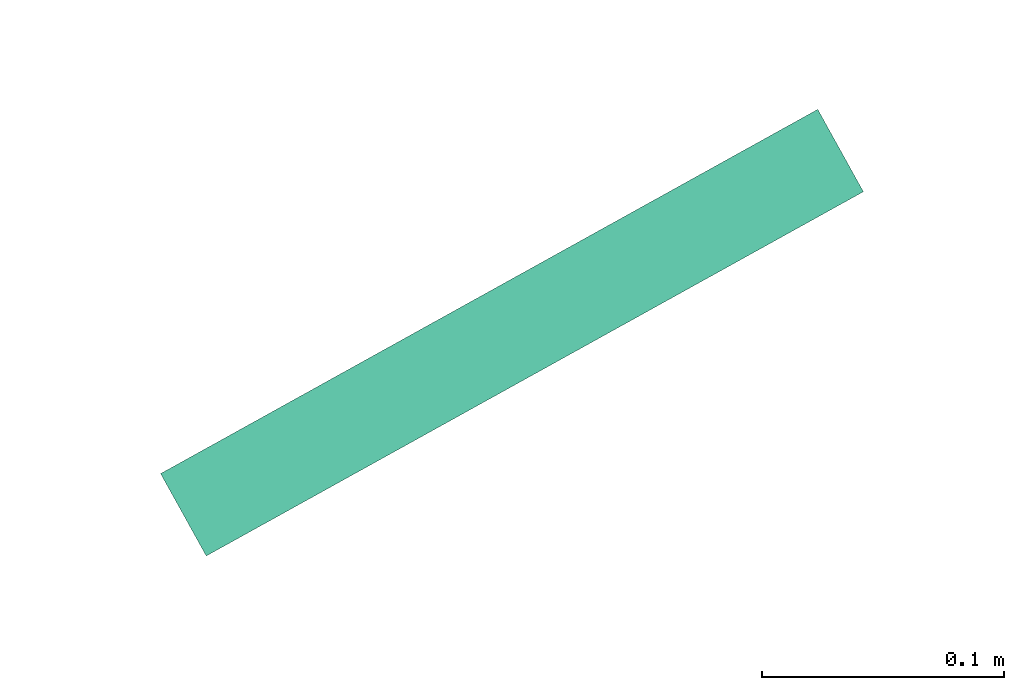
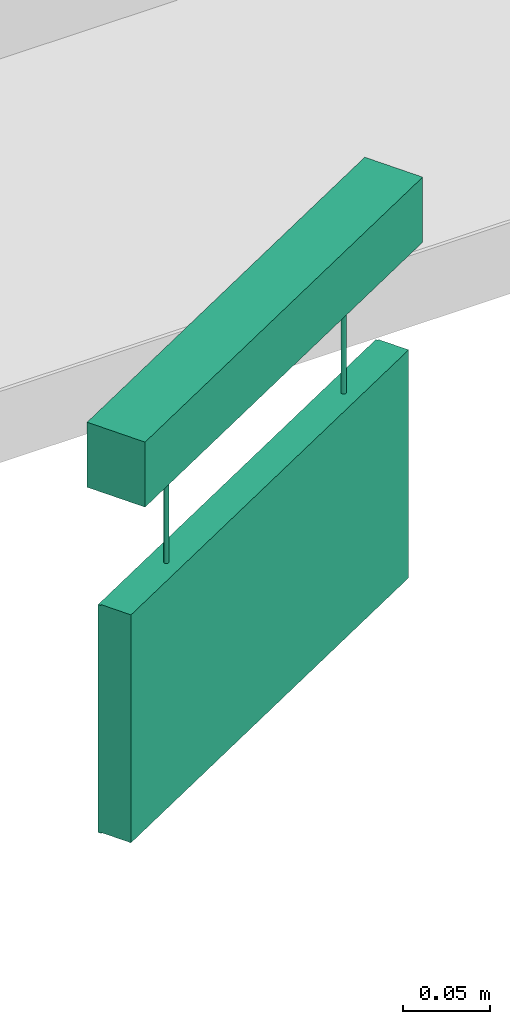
# One storey, part 12 of 24: 1 flow terminal.
"""IFC2X3 building model written with IfcOpenShell, lengths in millimetres."""

import ifcopenshell
import ifcopenshell.guid

model = None  # the IFC model being written
_history = None  # IfcOwnerHistory: only IFC2X3 demands one
_inside = {}  # id of a spatial element -> (the spatial element, [elements in it])
_under = {}  # id of a project, library or spatial element -> (it, [spatial elements below it])
_declared = {}  # id of a project -> (the project, [libraries it declares])
_typed = {}  # id of a type object -> (the type object, [elements of that type])
_made_of = {}  # id of a material, layer set ... -> (it, [elements and type objects made of it])


def new_model(schema):
    """Start an empty IFC model of exactly this schema.

    Asked for "IFC4X3", IfcOpenShell would pick the latest addendum, in which some entities
    have other attributes; the version numbers below select the first issue.
    IFC2X3 requires an IfcOwnerHistory on every rooted entity: one is made here for all.
    """
    global model, _history
    if schema == "IFC4X3":
        model = ifcopenshell.file(schema_version=(4, 3, 0, 0))
    else:
        model = ifcopenshell.file(schema=schema)
    _inside.clear()
    _under.clear()
    _declared.clear()
    _typed.clear()
    _made_of.clear()
    _history = None
    if model.schema == "IFC2X3":
        org = make("IfcOrganization", Name="unknown")
        user = make(
            "IfcPersonAndOrganization",
            ThePerson=make("IfcPerson", FamilyName="unknown"),
            TheOrganization=org,
        )
        app = make(
            "IfcApplication",
            ApplicationDeveloper=org,
            Version="unknown",
            ApplicationFullName="unknown",
            ApplicationIdentifier="unknown",
        )
        _history = make(
            "IfcOwnerHistory",
            OwningUser=user,
            OwningApplication=app,
            ChangeAction="ADDED",
            CreationDate=0,
        )
    return model


def make(cls, **values):
    """One entity of the class cls with the attributes given. An attribute that is None is left unset."""
    return model.create_entity(
        cls, **{name: value for name, value in values.items() if value is not None}
    )


def entity(cls, *values):
    """Any entity or typed value of the class cls, its attributes in the order of the schema. None: left unset."""
    e = model.create_entity(cls)
    for i, value in enumerate(values):
        if value is not None:
            e[i] = value
    return e


def rooted(cls, **values):
    """An entity with a GlobalId (a new one), such as an element, a storey or a relation."""
    return make(cls, GlobalId=ifcopenshell.guid.new(), OwnerHistory=_history, **values)


def si_unit(unit_type, name, prefix=None):
    """IfcSIUnit, for example si_unit("LENGTHUNIT", "METRE", prefix="MILLI")."""
    return make("IfcSIUnit", UnitType=unit_type, Prefix=prefix, Name=name)


def converted_unit(unit_type, name, factor, base, dimensions=None, offset=None):
    """IfcConversionBasedUnit, such as the inch: factor (a typed value) times the base unit."""
    return make(
        "IfcConversionBasedUnit"
        if offset is None
        else "IfcConversionBasedUnitWithOffset",
        ConversionOffset=offset,
        Dimensions=None
        if dimensions is None
        else entity("IfcDimensionalExponents", *dimensions),
        UnitType=unit_type,
        Name=name,
        ConversionFactor=make(
            "IfcMeasureWithUnit", ValueComponent=factor, UnitComponent=base
        ),
    )


def derived_unit(unit_type, elements):
    """IfcDerivedUnit: a product of units, each with its exponent."""
    return make(
        "IfcDerivedUnit",
        Elements=[
            make("IfcDerivedUnitElement", Unit=unit, Exponent=power)
            for unit, power in elements
        ],
        UnitType=unit_type,
    )


def assignment(units):
    """IfcUnitAssignment: the units of a project."""
    return None if units is None else make("IfcUnitAssignment", Units=units)


def point(xyz):
    """IfcCartesianPoint."""
    return None if xyz is None else make("IfcCartesianPoint", Coordinates=xyz)


def direction(xyz):
    """IfcDirection."""
    return None if xyz is None else make("IfcDirection", DirectionRatios=xyz)


def frame(location, z_axis=None, x_axis=None):
    """IfcAxis2Placement3D, a coordinate frame: its origin and axes. An axis left out is left unset."""
    return make(
        "IfcAxis2Placement3D",
        Location=point(location),
        Axis=direction(z_axis),
        RefDirection=direction(x_axis),
    )


def origin_with_axes():
    """The frame at (0, 0, 0) with the z axis (0, 0, 1) and the x axis (1, 0, 0) written out."""
    return frame((0.0, 0.0, 0.0), z_axis=(0.0, 0.0, 1.0), x_axis=(1.0, 0.0, 0.0))


def place(relative_to, where):
    """IfcLocalPlacement: puts the frame where relative to a parent placement (None: the world)."""
    return make(
        "IfcLocalPlacement", PlacementRelTo=relative_to, RelativePlacement=where
    )


def context(
    kind, dimensions, precision=None, world=None, true_north=None, identifier=None
):
    """IfcGeometricRepresentationContext, for example the 3D "Model" context."""
    return make(
        "IfcGeometricRepresentationContext",
        ContextIdentifier=identifier,
        ContextType=kind,
        CoordinateSpaceDimension=dimensions,
        Precision=precision,
        WorldCoordinateSystem=world,
        TrueNorth=true_north,
    )


def subcontext(parent, identifier, kind, view, scale=None):
    """IfcGeometricRepresentationSubContext, for example "Body" below "Model"."""
    return make(
        "IfcGeometricRepresentationSubContext",
        ContextIdentifier=identifier,
        ContextType=kind,
        ParentContext=parent,
        TargetScale=scale,
        TargetView=view,
    )


def project(units=None, contexts=None):
    """IfcProject with its units and contexts."""
    return rooted(
        "IfcProject",
        Name="project",
        RepresentationContexts=contexts,
        UnitsInContext=assignment(units),
    )


def spatial(cls, under=None, at=None, **own):
    """A site, building, storey or space (cls), placed at a placement, below another one or the project."""
    s = rooted(cls, ObjectPlacement=at, **own)
    if under is not None:
        _under.setdefault(under.id(), (under, []))[1].append(s)
    return s


def faces_of(points, faces, orient=None, outer=None):
    """IfcFace entities. A face is a list of loops; a loop is a list of indices into points, from 0.

    orient and outer hold one flag for each loop. By default every Orientation is true, the
    first loop of a face is its IfcFaceOuterBound and the others are IfcFaceBound.
    """
    made = []
    for i, loops in enumerate(faces):
        bounds = []
        for j, loop in enumerate(loops):
            is_outer = j == 0 if outer is None else outer[i][j]
            bounds.append(
                make(
                    "IfcFaceOuterBound" if is_outer else "IfcFaceBound",
                    Bound=make("IfcPolyLoop", Polygon=[points[k] for k in loop]),
                    Orientation=True if orient is None else orient[i][j],
                )
            )
        made.append(make("IfcFace", Bounds=bounds))
    return made


def open_shell(faces, orient=None, outer=None):
    """The faces of one IfcOpenShell. surface_model builds it on its shared points."""
    return ("IfcOpenShell", faces, orient, outer)


def surface_model(cls, points, shells):
    """IfcFaceBasedSurfaceModel or IfcShellBasedSurfaceModel (cls): surfaces that need not close."""
    shared = [point(p) for p in points]
    made = [make(c, CfsFaces=faces_of(shared, fs, o, b)) for c, fs, o, b in shells]
    if cls == "IfcFaceBasedSurfaceModel":
        return make(cls, FbsmFaces=made)
    return make(cls, SbsmBoundary=made)


def shape(context_of_items, identifier, shape_type, items):
    """IfcShapeRepresentation: the items that make up one representation, for example the "Body"."""
    return make(
        "IfcShapeRepresentation",
        ContextOfItems=context_of_items,
        RepresentationIdentifier=identifier,
        RepresentationType=shape_type,
        Items=items,
    )


def source(mapping_origin, context_of_items, identifier, shape_type, items):
    """IfcRepresentationMap: a shape defined once, which mapped items show again and again."""
    return make(
        "IfcRepresentationMap",
        MappingOrigin=mapping_origin,
        MappedRepresentation=shape(context_of_items, identifier, shape_type, items),
    )


def transform(
    local_origin,
    x_axis=None,
    y_axis=None,
    z_axis=None,
    scale=None,
    scale2=None,
    scale3=None,
    uniform=True,
):
    """IfcCartesianTransformationOperator3D, or its non-uniform kind. x_axis, y_axis, z_axis: its Axis1, 2, 3."""
    if uniform:
        return make(
            "IfcCartesianTransformationOperator3D",
            Axis1=direction(x_axis),
            Axis2=direction(y_axis),
            LocalOrigin=point(local_origin),
            Scale=scale,
            Axis3=direction(z_axis),
        )
    return make(
        "IfcCartesianTransformationOperator3DnonUniform",
        Axis1=direction(x_axis),
        Axis2=direction(y_axis),
        LocalOrigin=point(local_origin),
        Scale=scale,
        Axis3=direction(z_axis),
        Scale2=scale2,
        Scale3=scale3,
    )


def mapped(mapping_source, mapping_target):
    """IfcMappedItem: shows the shape of a source again, moved by a transform."""
    return make(
        "IfcMappedItem", MappingSource=mapping_source, MappingTarget=mapping_target
    )


def made_of(thing, what):
    """Note that an element or type object is made of a material, layer set ...; save() writes the relation."""
    if what is not None:
        _made_of.setdefault(what.id(), (what, []))[1].append(thing)
    return thing


def type_object(cls, material=None, **own):
    """A type object (cls), such as IfcWallType, which elements share."""
    return made_of(rooted(cls, **own), material)


def element(
    cls,
    number,
    at=None,
    inside=None,
    cuts=None,
    type_object=None,
    material=None,
    context=None,
    identifier="Body",
    shape_type=None,
    held_by="IfcProductDefinitionShape",
    body=None,
    shapes=None,
    **own,
):
    """One element of the class cls, such as IfcWall. Its Tag is "e" and its number.

    at: its placement. inside: the storey or other place that contains it. cuts: it is an
    opening in that element (IfcRelVoidsElement). A single representation is given by context,
    identifier, shape_type and body (its items); several are given by shapes. held_by: the class
    of the entity that holds the representations. save() writes the other relations.
    """
    e = rooted(cls, Tag="e%d" % number, ObjectPlacement=at, **own)
    if body is not None:
        shapes = [shape(context, identifier, shape_type, body)]
    if shapes is not None:
        e.Representation = make(held_by, Representations=shapes)
    if inside is not None:
        _inside.setdefault(inside.id(), (inside, []))[1].append(e)
    if cuts is not None:
        rooted(
            "IfcRelVoidsElement", RelatingBuildingElement=cuts, RelatedOpeningElement=e
        )
    if type_object is not None:
        _typed.setdefault(type_object.id(), (type_object, []))[1].append(e)
    return made_of(e, material)


def aggregate(whole, parts):
    """IfcRelAggregates: a whole, such as a stair, and the parts it consists of."""
    return rooted("IfcRelAggregates", RelatingObject=whole, RelatedObjects=parts)


def save(model, path):
    """Write the relations noted so far, then the file.

    IfcRelAggregates (storeys below a building ...), IfcRelContainedInSpatialStructure (elements
    in a storey), IfcRelDefinesByType, IfcRelAssociatesMaterial and IfcRelDeclares: one each for
    every whole, place, type object, material and project.
    """
    for whole, parts in _under.values():
        aggregate(whole, parts)
    for where, things in _inside.values():
        rooted(
            "IfcRelContainedInSpatialStructure",
            RelatedElements=things,
            RelatingStructure=where,
        )
    for kind, things in _typed.values():
        rooted("IfcRelDefinesByType", RelatedObjects=things, RelatingType=kind)
    for what, things in _made_of.values():
        rooted("IfcRelAssociatesMaterial", RelatedObjects=things, RelatingMaterial=what)
    for by, libraries in _declared.values():
        rooted("IfcRelDeclares", RelatingContext=by, RelatedDefinitions=libraries)
    model.write(path)


model = new_model("IFC2X3")

# Units and contexts
model_context = context("Model", 3, precision=0.01, world=frame((0.0, 4.29681676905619e-09, 0.0)), true_north=direction((4.01073788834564e-13, 1.0)))
plan_context = context("Plan", 3, precision=0.01, world=frame((0.0, 4.29681676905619e-09, 0.0)), true_north=direction((4.01073788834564e-13, 1.0)))
body_context = subcontext(model_context, "Body", "Model", "MODEL_VIEW")
ifc_project = project(units=[converted_unit("PLANEANGLEUNIT", "DEGREE", entity("IfcPositiveLengthMeasure", 0.0174532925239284), si_unit("PLANEANGLEUNIT", "RADIAN"), dimensions=[0, 0, 0, 0, 0, 0, 0]), si_unit("AREAUNIT", "SQUARE_METRE"), si_unit("LENGTHUNIT", "METRE", prefix="MILLI"), si_unit("MASSUNIT", "GRAM", prefix="KILO"), si_unit("POWERUNIT", "WATT"), si_unit("PRESSUREUNIT", "PASCAL"), si_unit("FORCEUNIT", "NEWTON", prefix="KILO"), si_unit("ELECTRICVOLTAGEUNIT", "VOLT"), si_unit("ELECTRICCURRENTUNIT", "AMPERE"), si_unit("THERMODYNAMICTEMPERATUREUNIT", "DEGREE_CELSIUS"), si_unit("TIMEUNIT", "SECOND"), si_unit("VOLUMEUNIT", "CUBIC_METRE"), derived_unit("LINEARVELOCITYUNIT", [(si_unit("LENGTHUNIT", "METRE"), 1), (si_unit("TIMEUNIT", "SECOND"), -1)]), derived_unit("VOLUMETRICFLOWRATEUNIT", [(si_unit("VOLUMEUNIT", "CUBIC_METRE"), 1), (si_unit("TIMEUNIT", "SECOND"), -1)]), derived_unit("THERMALTRANSMITTANCEUNIT", [(si_unit("POWERUNIT", "WATT"), 1), (si_unit("THERMODYNAMICTEMPERATUREUNIT", "KELVIN"), -1), (si_unit("AREAUNIT", "SQUARE_METRE"), -1)]), derived_unit("SOUNDPRESSUREUNIT", [(si_unit("PRESSUREUNIT", "PASCAL"), 1)])], contexts=[model_context, plan_context])

# Site, building, storey
site_placement = place(None, frame((0.0, -4.29681676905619e-09, 0.0), z_axis=(0.0, 0.0, 1.0), x_axis=(1.0, 0.0, 0.0)))
site = spatial("IfcSite", under=ifc_project, at=site_placement, Name="ENGM", CompositionType="ELEMENT")
building_placement = place(site_placement, frame((0.0, 4.29681676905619e-09, 0.0), z_axis=(0.0, 0.0, 1.0), x_axis=(1.0, 0.0, 0.0)))
building = spatial("IfcBuilding", under=site, at=building_placement, Name="TH", CompositionType="ELEMENT")
storey_placement = place(building_placement, frame((0.0, 0.0, 210200.0), z_axis=(0.0, 0.0, 1.0), x_axis=(1.0, 0.0, 0.0)))
storey = spatial("IfcBuildingStorey", under=building, at=storey_placement, Name="Nivå F - 0,7 m", CompositionType="ELEMENT", Elevation=210200.0)

# Flow terminal
light_fixture_type = type_object("IfcLightFixtureType", Name="IB7334 Zumtobel Puresign/Consign 150 ASI NDA", PredefinedType="NOTDEFINED")
shared_shape = source(origin_with_axes(), body_context, "Body", "SurfaceModel", [
    surface_model("IfcShellBasedSurfaceModel", [(-81.53868, 34.0, -145.12258), (-54.46132, 34.0, -145.12258), (-54.46132, 34.0, -221.44284), (-27.10707, 34.0, -224.68761), (-68.0, 34.0, -265.58054), (-27.10707, 34.0, -194.08859), (-81.53868, 34.0, -221.44284), (-108.89293, 34.0, -224.68761), (-108.89293, 34.0, -194.08859), (-81.53868, 32.0, -221.44284), (-68.0, 32.0, -265.58054), (-54.46132, 32.0, -221.44284), (-108.89293, 32.0, -224.68761), (-108.89293, 32.0, -194.08859), (-27.10707, 32.0, -224.68761), (-81.53868, 32.0, -145.12258), (-54.46132, 32.0, -145.12258), (-27.10707, 32.0, -194.08859), (-128.62178, 34.0, -240.35155), (-135.61481, 34.0, -223.4689), (-117.49747, 34.0, -254.84903), (-138.0, 34.0, -205.35156), (-135.61481, 34.0, -187.23423), (-128.62178, 34.0, -170.35156), (-103.0, 34.0, -265.97334), (-86.11734, 34.0, -272.96637), (-68.0, 34.0, -275.35156), (-49.88267, 34.0, -272.96637), (-33.0, 34.0, -265.97334), (-117.49747, 34.0, -155.8541), (-103.0, 34.0, -144.72978), (-86.11734, 34.0, -137.73675), (-68.0, 34.0, -135.35156), (-49.88267, 34.0, -137.73675), (-33.0, 34.0, -144.72978), (-0.38519, 34.0, -223.4689), (-7.37822, 34.0, -240.35155), (2.0, 34.0, -205.35156), (-18.50252, 34.0, -254.84903), (-18.50252, 34.0, -155.8541), (-7.37822, 34.0, -170.35156), (-0.38519, 34.0, -187.23423), (-49.88267, 32.0, -137.73675), (-68.0, 32.0, -135.35156), (-33.0, 32.0, -144.72978), (-103.0, 32.0, -144.72978), (-86.11734, 32.0, -137.73675), (-0.38519, 32.0, -187.23423), (-7.37822, 32.0, -170.35156), (2.0, 32.0, -205.35156), (-18.50252, 32.0, -155.8541), (-0.38519, 32.0, -223.4689), (-7.37822, 32.0, -240.35155), (-18.50252, 32.0, -254.84903), (-117.49747, 32.0, -155.8541), (-128.62178, 32.0, -170.35156), (-135.61481, 32.0, -187.23423), (-138.0, 32.0, -205.35156), (-135.61481, 32.0, -223.4689), (-128.62178, 32.0, -240.35155), (-117.49747, 32.0, -254.84903), (-103.0, 32.0, -265.97334), (-33.0, 32.0, -265.97334), (-86.11734, 32.0, -272.96637), (-49.88267, 32.0, -272.96637), (-68.0, 32.0, -275.35156), (-155.0, 34.0, -285.35157), (29.54747, 34.0, -259.89348), (40.0, 34.0, -266.174), (155.0, 34.0, -285.35157), (-155.0, 34.0, -125.35156), (10.0, 34.0, -203.35156), (10.0, 34.0, -191.35157), (40.0, 34.0, -203.35156), (28.0, 34.0, -178.14045), (58.20469, 34.0, -212.19986), (68.0, 34.0, -251.35155), (68.0, 34.0, -219.57417), (110.0, 34.0, -251.35155), (110.0, 34.0, -239.35156), (80.0, 34.0, -207.93515), (80.0, 34.0, -239.35156), (155.0, 34.0, -125.35156), (28.0, 34.0, -191.35157), (88.85504, 34.0, -196.43854), (99.14496, 34.0, -190.26459), (78.60286, 34.0, -179.35157), (65.7082, 34.0, -179.35157), (38.37653, 34.0, -166.87452), (42.6718, 34.0, -168.35925), (40.0, 34.0, -183.07235), (29.87565, 34.0, -160.35157), (28.0, 34.0, -153.35156), (28.47704, 34.0, -149.7281), (29.87565, 34.0, -146.35156), (28.47704, 34.0, -156.97503), (35.0, 34.0, -165.47591), (32.1005, 34.0, -163.25106), (42.0, 34.0, -139.35156), (32.1005, 34.0, -143.45206), (35.0, 34.0, -141.22721), (38.37653, 34.0, -139.8286), (42.0, 34.0, -167.35156), (45.62347, 34.0, -166.87452), (46.0, 34.0, -167.35156), (49.0, 34.0, -165.47591), (85.39714, 34.0, -167.35156), (51.89949, 34.0, -163.25106), (54.12435, 34.0, -160.35157), (55.52296, 34.0, -156.97503), (51.89949, 34.0, -143.45206), (49.0, 34.0, -141.22721), (45.62347, 34.0, -139.8286), (55.52296, 34.0, -149.7281), (56.0, 34.0, -153.35156), (54.12435, 34.0, -146.35156), (155.0, 32.0, -125.35156), (-155.0, 32.0, -125.35156), (42.0, 32.0, -139.35156), (35.0, 32.0, -141.22721), (29.87565, 32.0, -146.35156), (32.1005, 32.0, -143.45206), (38.37653, 32.0, -139.8286), (28.47704, 32.0, -149.7281), (28.0, 32.0, -153.35156), (28.47704, 32.0, -156.97503), (28.0, 32.0, -178.14045), (38.37653, 32.0, -166.87452), (35.0, 32.0, -165.47591), (32.1005, 32.0, -163.25106), (29.87565, 32.0, -160.35157), (45.62347, 32.0, -139.8286), (49.0, 32.0, -141.22721), (51.89949, 32.0, -143.45206), (54.12435, 32.0, -146.35156), (85.39714, 32.0, -167.35156), (55.52296, 32.0, -149.7281), (56.0, 32.0, -153.35156), (45.62347, 32.0, -166.87452), (42.6718, 32.0, -168.35925), (46.0, 32.0, -167.35156), (42.0, 32.0, -167.35156), (49.0, 32.0, -165.47591), (54.12435, 32.0, -160.35157), (55.52296, 32.0, -156.97503), (51.89949, 32.0, -163.25106), (99.14496, 32.0, -190.26459), (-155.0, 32.0, -285.35157), (10.0, 32.0, -203.35156), (10.0, 32.0, -191.35157), (40.0, 32.0, -203.35156), (29.54747, 32.0, -259.89348), (155.0, 32.0, -285.35157), (40.0, 32.0, -266.174), (28.0, 32.0, -191.35157), (88.85504, 32.0, -196.43854), (78.60286, 32.0, -179.35157), (80.0, 32.0, -207.93515), (65.7082, 32.0, -179.35157), (110.0, 32.0, -239.35156), (40.0, 32.0, -183.07235), (58.20469, 32.0, -212.19986), (68.0, 32.0, -219.57417), (68.0, 32.0, -251.35155), (110.0, 32.0, -251.35155), (80.0, 32.0, -239.35156), (97.65961, 22.79955, -45.35156), (98.63059, 23.54461, -45.35156), (98.24492, 23.38486, -45.35156), (97.91374, 23.13074, -45.35156), (97.49985, 22.41388, -45.35156), (97.44537, 22.0, -45.35156), (99.45835, 23.54461, -45.35156), (100.42933, 21.20045, -45.35156), (99.84401, 23.38486, -45.35156), (100.58908, 22.41388, -45.35156), (99.04447, 23.5991, -45.35156), (100.42933, 22.79955, -45.35156), (100.1752, 23.13074, -45.35156), (97.91374, 20.86927, -45.35156), (97.49985, 21.58612, -45.35156), (97.65961, 21.20045, -45.35156), (98.63059, 20.45539, -45.35156), (99.04447, 20.4009, -45.35156), (98.24492, 20.61514, -45.35156), (99.45835, 20.45539, -45.35156), (100.64357, 22.0, -45.35156), (100.58908, 21.58612, -45.35156), (99.84401, 20.61514, -45.35156), (100.1752, 20.86927, -45.35156), (-99.84401, 23.38486, -45.35156), (-98.24492, 23.38486, -45.35156), (-99.45835, 23.54461, -45.35156), (-100.1752, 23.13074, -45.35156), (-100.1752, 20.86927, -45.35156), (-100.58908, 22.41388, -45.35156), (-100.64357, 22.0, -45.35156), (-100.42933, 22.79955, -45.35156), (-97.65961, 21.20045, -45.35156), (-99.04447, 23.5991, -45.35156), (-98.63059, 23.54461, -45.35156), (-97.91374, 23.13074, -45.35156), (-97.49985, 22.41388, -45.35156), (-97.65961, 22.79955, -45.35156), (-100.58908, 21.58612, -45.35156), (-100.42933, 21.20045, -45.35156), (-99.45835, 20.45539, -45.35156), (-99.84401, 20.61514, -45.35156), (-99.04447, 20.4009, -45.35156), (-98.63059, 20.45539, -45.35156), (-97.44537, 22.0, -45.35156), (-97.49985, 21.58612, -45.35156), (-98.24492, 20.61514, -45.35156), (-97.91374, 20.86927, -45.35156), (97.91374, 20.86927, -124.69685), (99.04447, 20.4009, -124.69685), (98.63059, 20.45539, -124.69685), (98.24492, 20.61514, -124.69685), (97.65961, 21.20045, -124.69685), (97.49985, 21.58612, -124.69685), (99.45835, 20.45539, -124.69685), (97.65961, 22.79955, -124.69685), (100.42933, 21.20045, -124.69685), (99.84401, 20.61514, -124.69685), (100.1752, 20.86927, -124.69685), (100.64357, 22.0, -124.69685), (100.58908, 21.58612, -124.69685), (100.58908, 22.41388, -124.69685), (97.44537, 22.0, -124.69685), (97.49985, 22.41388, -124.69685), (98.63059, 23.54461, -124.69685), (98.24492, 23.38486, -124.69685), (97.91374, 23.13074, -124.69685), (99.45835, 23.54461, -124.69685), (100.42933, 22.79955, -124.69685), (99.84401, 23.38486, -124.69685), (100.1752, 23.13074, -124.69685), (99.04447, 23.5991, -124.69685), (-99.45835, 20.45539, -124.69685), (-98.63059, 20.45539, -124.69685), (-99.04447, 20.4009, -124.69685), (-100.1752, 20.86927, -124.69685), (-99.84401, 20.61514, -124.69685), (-100.42933, 21.20045, -124.69685), (-100.58908, 21.58612, -124.69685), (-97.65961, 21.20045, -124.69685), (-99.84401, 23.38486, -124.69685), (-98.24492, 20.61514, -124.69685), (-97.91374, 20.86927, -124.69685), (-97.44537, 22.0, -124.69685), (-97.49985, 21.58612, -124.69685), (-97.49985, 22.41388, -124.69685), (-100.64357, 22.0, -124.69685), (-100.1752, 23.13074, -124.69685), (-100.58908, 22.41388, -124.69685), (-100.42933, 22.79955, -124.69685), (-98.24492, 23.38486, -124.69685), (-99.45835, 23.54461, -124.69685), (-97.91374, 23.13074, -124.69685), (-97.65961, 22.79955, -124.69685), (-99.04447, 23.5991, -124.69685), (-98.63059, 23.54461, -124.69685), (155.0, 41.43279, -0.02005), (155.0, 2.56721, -0.02005), (155.0, 41.43279, -45.67969), (155.0, 2.56721, -45.67969), (155.0, 32.0, -124.69685), (155.0, 12.0, -124.69685), (155.0, 12.0, -284.69685), (155.0, 32.0, -284.69685), (-155.0, 32.0, -284.69685), (-155.0, 12.0, -284.69685), (-155.0, 32.0, -124.69685), (-155.0, 12.0, -124.69685), (-155.0, 41.43279, -45.67969), (-155.0, 2.56721, -45.67969), (-155.0, 2.56721, -0.02005), (-155.0, 41.43279, -0.02005)], [open_shell([[[0, 1, 2]], [[2, 3, 4]], [[3, 2, 5]], [[6, 4, 7]], [[4, 6, 2]], [[6, 7, 8]], [[2, 6, 0]], [[9, 10, 11]], [[12, 9, 13]], [[9, 12, 10]], [[10, 14, 11]], [[15, 11, 16]], [[15, 9, 11]], [[17, 11, 14]], [[3, 5, 17]], [[17, 14, 3]], [[4, 3, 14]], [[14, 10, 4]], [[7, 4, 10]], [[10, 12, 7]], [[8, 7, 12]], [[12, 13, 8]], [[6, 8, 9]], [[13, 9, 8]], [[0, 6, 9]], [[9, 15, 0]], [[1, 0, 15]], [[15, 16, 1]], [[2, 1, 16]], [[16, 11, 2]], [[5, 2, 17]], [[11, 17, 2]], [[18, 19, 7]], [[7, 20, 18]], [[7, 19, 21]], [[22, 23, 8]], [[7, 21, 8]], [[6, 8, 0]], [[8, 21, 22]], [[20, 7, 24]], [[25, 24, 4]], [[26, 4, 27]], [[4, 26, 25]], [[7, 4, 24]], [[27, 4, 28]], [[3, 28, 4]], [[8, 23, 29]], [[30, 0, 8]], [[0, 31, 32]], [[31, 0, 30]], [[32, 33, 1]], [[2, 1, 5]], [[34, 1, 33]], [[32, 1, 0]], [[5, 1, 34]], [[3, 35, 36]], [[35, 3, 37]], [[36, 38, 3]], [[38, 28, 3]], [[39, 40, 5]], [[5, 41, 37]], [[41, 5, 40]], [[5, 37, 3]], [[39, 5, 34]], [[30, 8, 29]], [[42, 43, 16]], [[17, 44, 16]], [[16, 44, 42]], [[43, 15, 16]], [[15, 45, 13]], [[46, 15, 43]], [[15, 46, 45]], [[16, 11, 17]], [[17, 47, 48]], [[17, 49, 47]], [[48, 50, 17]], [[14, 51, 49]], [[52, 51, 14]], [[52, 14, 53]], [[14, 49, 17]], [[50, 44, 17]], [[45, 54, 13]], [[55, 56, 13]], [[57, 12, 13]], [[13, 56, 57]], [[9, 15, 13]], [[58, 59, 12]], [[60, 12, 59]], [[12, 57, 58]], [[12, 60, 61]], [[14, 10, 62]], [[53, 14, 62]], [[61, 63, 10]], [[64, 10, 65]], [[10, 64, 62]], [[65, 10, 63]], [[12, 61, 10]], [[13, 54, 55]], [[3, 4, 10]], [[10, 14, 3]], [[5, 3, 14]], [[14, 17, 5]], [[2, 5, 17]], [[17, 11, 2]], [[1, 2, 16]], [[11, 16, 2]], [[0, 1, 16]], [[16, 15, 0]], [[6, 0, 15]], [[15, 9, 6]], [[8, 6, 9]], [[9, 13, 8]], [[7, 8, 13]], [[13, 12, 7]], [[4, 7, 12]], [[12, 10, 4]], [[42, 33, 43]], [[44, 34, 42]], [[40, 50, 48]], [[44, 50, 39]], [[41, 48, 47]], [[42, 34, 33]], [[33, 32, 43]], [[41, 40, 48]], [[39, 50, 40]], [[39, 34, 44]], [[37, 41, 47]], [[47, 49, 37]], [[51, 35, 49]], [[52, 36, 51]], [[28, 53, 62]], [[52, 53, 38]], [[27, 62, 64]], [[52, 38, 36]], [[36, 35, 51]], [[26, 27, 64]], [[28, 62, 27]], [[28, 38, 53]], [[65, 26, 64]], [[49, 35, 37]], [[63, 25, 65]], [[61, 24, 63]], [[18, 60, 59]], [[61, 60, 20]], [[19, 59, 58]], [[63, 24, 25]], [[25, 26, 65]], [[19, 18, 59]], [[20, 60, 18]], [[20, 24, 61]], [[21, 19, 58]], [[58, 57, 21]], [[56, 22, 57]], [[55, 23, 56]], [[30, 54, 45]], [[55, 54, 29]], [[31, 45, 46]], [[55, 29, 23]], [[23, 22, 56]], [[32, 31, 46]], [[30, 45, 31]], [[30, 29, 54]], [[43, 32, 46]], [[57, 22, 21]], [[66, 24, 25]], [[24, 66, 20]], [[18, 20, 66]], [[66, 19, 18]], [[25, 26, 66]], [[28, 38, 67]], [[27, 28, 68]], [[26, 27, 69]], [[66, 26, 69]], [[21, 19, 66]], [[22, 21, 70]], [[67, 36, 35]], [[71, 37, 72]], [[41, 72, 37]], [[37, 71, 35]], [[73, 35, 71]], [[41, 40, 74]], [[21, 66, 70]], [[38, 36, 67]], [[67, 68, 28]], [[67, 73, 75]], [[76, 68, 77]], [[69, 78, 79]], [[69, 68, 78]], [[80, 79, 81]], [[68, 76, 78]], [[82, 69, 79]], [[68, 69, 27]], [[73, 67, 35]], [[74, 83, 72]], [[72, 41, 74]], [[84, 85, 79]], [[84, 80, 86]], [[86, 80, 87]], [[88, 89, 74]], [[84, 79, 80]], [[75, 73, 90]], [[82, 79, 85]], [[91, 74, 40]], [[92, 40, 39]], [[39, 93, 92]], [[94, 93, 39]], [[23, 70, 29]], [[40, 92, 95]], [[96, 74, 97]], [[91, 40, 95]], [[74, 91, 97]], [[74, 96, 88]], [[31, 30, 70]], [[98, 33, 32]], [[70, 32, 31]], [[30, 29, 70]], [[39, 99, 94]], [[39, 34, 99]], [[34, 100, 99]], [[100, 34, 33]], [[101, 100, 33]], [[32, 70, 82]], [[23, 22, 70]], [[89, 102, 103]], [[102, 89, 88]], [[89, 103, 104]], [[104, 105, 106]], [[107, 106, 105]], [[105, 104, 103]], [[106, 108, 109]], [[106, 107, 108]], [[110, 111, 82]], [[98, 101, 33]], [[112, 98, 82]], [[111, 112, 82]], [[113, 106, 114]], [[115, 82, 106]], [[82, 115, 110]], [[106, 113, 115]], [[114, 106, 109]], [[98, 32, 82]], [[106, 82, 85]], [[116, 117, 43]], [[43, 117, 46]], [[45, 46, 117]], [[117, 54, 45]], [[43, 42, 118]], [[119, 42, 44]], [[120, 121, 50]], [[44, 121, 119]], [[44, 50, 121]], [[119, 122, 42]], [[123, 120, 50]], [[123, 50, 124]], [[125, 124, 48]], [[54, 117, 55]], [[126, 127, 128]], [[126, 129, 130]], [[126, 128, 129]], [[130, 125, 48]], [[124, 50, 48]], [[117, 56, 55]], [[118, 131, 116]], [[118, 42, 122]], [[131, 132, 116]], [[116, 133, 134]], [[133, 116, 132]], [[135, 134, 136]], [[116, 134, 135]], [[135, 136, 137]], [[118, 116, 43]], [[138, 139, 140]], [[139, 138, 141]], [[139, 141, 127]], [[127, 126, 139]], [[138, 140, 142]], [[143, 135, 144]], [[142, 135, 145]], [[135, 142, 140]], [[135, 143, 145]], [[144, 135, 137]], [[116, 135, 146]], [[56, 117, 57]], [[57, 147, 58]], [[126, 48, 47]], [[148, 49, 51]], [[47, 49, 149]], [[150, 148, 51]], [[148, 149, 49]], [[51, 52, 151]], [[60, 59, 147]], [[61, 147, 63]], [[147, 61, 60]], [[59, 58, 147]], [[53, 62, 151]], [[65, 63, 147]], [[64, 65, 152]], [[62, 64, 153]], [[147, 152, 65]], [[117, 147, 57]], [[52, 53, 151]], [[154, 126, 149]], [[126, 47, 149]], [[155, 156, 157]], [[157, 156, 158]], [[146, 155, 159]], [[160, 150, 161]], [[162, 153, 163]], [[153, 151, 62]], [[163, 153, 164]], [[161, 150, 151]], [[157, 165, 159]], [[159, 164, 152]], [[116, 159, 152]], [[153, 152, 164]], [[159, 155, 157]], [[153, 64, 152]], [[51, 151, 150]], [[159, 116, 146]], [[130, 48, 126]], [[70, 66, 147]], [[147, 117, 70]], [[82, 70, 117]], [[117, 116, 82]], [[69, 82, 116]], [[116, 152, 69]], [[66, 69, 152]], [[152, 147, 66]], [[79, 78, 164]], [[164, 159, 79]], [[81, 79, 159]], [[159, 165, 81]], [[87, 80, 157]], [[157, 158, 87]], [[86, 87, 158]], [[158, 156, 86]], [[84, 86, 156]], [[156, 155, 84]], [[85, 84, 155]], [[155, 146, 85]], [[106, 85, 146]], [[146, 135, 106]], [[104, 106, 135]], [[135, 140, 104]], [[89, 104, 139]], [[140, 139, 104]], [[74, 89, 139]], [[139, 126, 74]], [[83, 74, 126]], [[126, 154, 83]], [[72, 83, 149]], [[154, 149, 83]], [[71, 72, 149]], [[149, 148, 71]], [[73, 71, 148]], [[148, 150, 73]], [[90, 73, 150]], [[150, 160, 90]], [[75, 90, 160]], [[160, 161, 75]], [[67, 75, 161]], [[161, 151, 67]], [[68, 67, 151]], [[151, 153, 68]], [[77, 68, 153]], [[153, 162, 77]], [[76, 77, 162]], [[162, 163, 76]], [[92, 125, 95]], [[95, 130, 91]], [[96, 97, 128]], [[129, 97, 91]], [[88, 96, 127]], [[125, 130, 95]], [[92, 124, 125]], [[96, 128, 127]], [[128, 97, 129]], [[91, 130, 129]], [[88, 127, 141]], [[141, 102, 88]], [[102, 138, 103]], [[103, 142, 105]], [[108, 107, 143]], [[145, 107, 105]], [[109, 108, 144]], [[142, 145, 105]], [[103, 138, 142]], [[109, 144, 137]], [[144, 108, 143]], [[107, 145, 143]], [[109, 137, 114]], [[141, 138, 102]], [[78, 76, 163]], [[163, 164, 78]], [[80, 81, 165]], [[165, 157, 80]], [[114, 136, 113]], [[113, 134, 115]], [[111, 110, 132]], [[133, 110, 115]], [[112, 111, 131]], [[136, 134, 113]], [[114, 137, 136]], [[111, 132, 131]], [[132, 110, 133]], [[115, 134, 133]], [[112, 131, 118]], [[118, 98, 112]], [[98, 122, 101]], [[101, 119, 100]], [[94, 99, 120]], [[121, 99, 100]], [[93, 94, 123]], [[119, 121, 100]], [[101, 122, 119]], [[93, 123, 124]], [[123, 94, 120]], [[99, 121, 120]], [[93, 124, 92]], [[118, 122, 98]], [[37, 47, 41]], [[41, 48, 40]], [[34, 39, 44]], [[50, 39, 40]], [[33, 34, 42]], [[47, 48, 41]], [[37, 49, 47]], [[34, 44, 42]], [[44, 39, 50]], [[40, 48, 50]], [[33, 42, 43]], [[43, 32, 33]], [[32, 46, 31]], [[31, 45, 30]], [[23, 29, 55]], [[54, 29, 30]], [[22, 23, 56]], [[45, 54, 30]], [[31, 46, 45]], [[22, 56, 57]], [[56, 23, 55]], [[29, 54, 55]], [[22, 57, 21]], [[43, 46, 32]], [[21, 58, 19]], [[19, 59, 18]], [[24, 20, 61]], [[60, 20, 18]], [[25, 24, 63]], [[58, 59, 19]], [[21, 57, 58]], [[24, 61, 63]], [[61, 20, 60]], [[18, 59, 60]], [[25, 63, 65]], [[65, 26, 25]], [[26, 64, 27]], [[27, 62, 28]], [[36, 38, 52]], [[53, 38, 28]], [[35, 36, 51]], [[62, 53, 28]], [[27, 64, 62]], [[35, 51, 49]], [[51, 36, 52]], [[38, 53, 52]], [[35, 49, 37]], [[65, 64, 26]], [[106, 86, 87]], [[86, 106, 85]], [[84, 86, 85]], [[87, 75, 90]], [[106, 87, 104]], [[89, 90, 74]], [[90, 89, 104]], [[73, 83, 90]], [[71, 72, 83]], [[83, 74, 90]], [[104, 87, 90]], [[77, 80, 81]], [[78, 76, 81]], [[78, 81, 79]], [[77, 81, 76]], [[73, 71, 83]], [[75, 77, 67]], [[77, 68, 67]], [[75, 80, 77]], [[75, 87, 80]], [[98, 112, 111]], [[110, 98, 111]], [[92, 101, 110]], [[113, 110, 115]], [[113, 92, 110]], [[101, 99, 100]], [[101, 98, 110]], [[101, 94, 99]], [[101, 92, 94]], [[94, 92, 93]], [[114, 109, 113]], [[109, 108, 107]], [[91, 109, 107]], [[105, 103, 102]], [[91, 107, 105]], [[91, 105, 102]], [[92, 91, 95]], [[92, 109, 91]], [[91, 96, 97]], [[102, 96, 91]], [[102, 88, 96]], [[109, 92, 113]], [[163, 164, 165]], [[163, 165, 162]], [[159, 165, 164]], [[162, 165, 157]], [[161, 151, 162]], [[151, 153, 162]], [[160, 161, 158]], [[148, 150, 154]], [[162, 157, 161]], [[161, 157, 158]], [[155, 146, 156]], [[158, 156, 135]], [[135, 156, 146]], [[158, 135, 140]], [[154, 150, 160]], [[126, 154, 160]], [[149, 148, 154]], [[160, 139, 126]], [[139, 160, 140]], [[160, 158, 140]], [[141, 138, 142]], [[130, 141, 142]], [[145, 143, 144]], [[130, 142, 145]], [[130, 145, 144]], [[128, 130, 129]], [[128, 127, 141]], [[130, 124, 125]], [[130, 128, 141]], [[120, 124, 130]], [[130, 144, 122]], [[144, 136, 133]], [[133, 136, 134]], [[118, 133, 132]], [[118, 144, 133]], [[132, 131, 118]], [[120, 122, 121]], [[123, 124, 120]], [[121, 122, 119]], [[130, 122, 120]], [[122, 144, 118]], [[137, 136, 144]], [[78, 79, 159]], [[159, 164, 78]], [[76, 78, 164]], [[164, 163, 76]], [[77, 76, 163]], [[163, 162, 77]], [[68, 77, 162]], [[162, 153, 68]], [[67, 68, 153]], [[153, 151, 67]], [[75, 67, 151]], [[151, 161, 75]], [[90, 75, 161]], [[161, 160, 90]], [[73, 90, 160]], [[160, 150, 73]], [[71, 73, 150]], [[150, 148, 71]], [[72, 71, 148]], [[148, 149, 72]], [[83, 72, 149]], [[149, 154, 83]], [[74, 83, 154]], [[154, 126, 74]], [[89, 74, 126]], [[126, 139, 89]], [[104, 89, 139]], [[139, 140, 104]], [[106, 104, 140]], [[140, 135, 106]], [[85, 106, 135]], [[135, 146, 85]], [[84, 85, 146]], [[146, 155, 84]], [[86, 84, 155]], [[155, 156, 86]], [[87, 86, 156]], [[156, 158, 87]], [[80, 87, 158]], [[158, 157, 80]], [[81, 80, 157]], [[157, 165, 81]], [[79, 81, 165]], [[165, 159, 79]], [[123, 93, 124]], [[120, 94, 123]], [[100, 121, 119]], [[120, 121, 99]], [[101, 119, 122]], [[123, 94, 93]], [[93, 92, 124]], [[101, 100, 119]], [[99, 121, 100]], [[99, 94, 120]], [[98, 101, 122]], [[122, 118, 98]], [[131, 112, 118]], [[132, 111, 131]], [[115, 133, 134]], [[132, 133, 110]], [[113, 134, 136]], [[132, 110, 111]], [[111, 112, 131]], [[114, 113, 136]], [[115, 134, 113]], [[115, 110, 133]], [[137, 114, 136]], [[118, 112, 98]], [[144, 109, 137]], [[143, 108, 144]], [[105, 145, 142]], [[143, 145, 107]], [[103, 142, 138]], [[144, 108, 109]], [[109, 114, 137]], [[103, 105, 142]], [[107, 145, 105]], [[107, 108, 143]], [[102, 103, 138]], [[138, 141, 102]], [[127, 88, 141]], [[128, 96, 127]], [[91, 129, 130]], [[128, 129, 97]], [[95, 130, 125]], [[128, 97, 96]], [[96, 88, 127]], [[92, 95, 125]], [[91, 130, 95]], [[91, 97, 129]], [[124, 92, 125]], [[141, 88, 102]], [[166, 167, 168]], [[166, 168, 169]], [[166, 170, 171]], [[172, 167, 173]], [[167, 166, 173]], [[174, 173, 175]], [[172, 176, 167]], [[174, 177, 178]], [[177, 174, 175]], [[174, 172, 173]], [[166, 171, 179]], [[180, 181, 179]], [[166, 179, 173]], [[182, 183, 179]], [[182, 179, 184]], [[185, 179, 183]], [[186, 173, 187]], [[175, 173, 186]], [[173, 188, 189]], [[188, 173, 185]], [[179, 185, 173]], [[171, 180, 179]], [[190, 191, 192]], [[193, 194, 190]], [[195, 196, 193]], [[195, 193, 197]], [[198, 191, 190]], [[199, 191, 200]], [[199, 192, 191]], [[201, 202, 203]], [[198, 201, 191]], [[198, 202, 201]], [[193, 196, 194]], [[204, 205, 194]], [[190, 194, 198]], [[194, 206, 198]], [[206, 194, 207]], [[208, 209, 206]], [[210, 198, 211]], [[202, 198, 210]], [[198, 212, 213]], [[212, 198, 209]], [[206, 209, 198]], [[196, 204, 194]], [[214, 215, 216]], [[214, 216, 217]], [[214, 218, 219]], [[215, 214, 220]], [[221, 222, 214]], [[223, 222, 224]], [[222, 223, 220]], [[222, 225, 226]], [[222, 220, 214]], [[222, 227, 225]], [[228, 214, 219]], [[228, 229, 221]], [[230, 222, 221]], [[231, 230, 221]], [[231, 221, 232]], [[222, 230, 233]], [[234, 235, 236]], [[235, 234, 227]], [[222, 235, 227]], [[233, 235, 222]], [[230, 237, 233]], [[221, 214, 228]], [[238, 239, 240]], [[241, 238, 242]], [[241, 243, 244]], [[245, 238, 241]], [[246, 245, 241]], [[247, 245, 248]], [[245, 247, 239]], [[245, 249, 250]], [[245, 239, 238]], [[245, 251, 249]], [[252, 241, 244]], [[253, 252, 254]], [[253, 254, 255]], [[246, 256, 245]], [[241, 253, 246]], [[256, 246, 257]], [[251, 258, 259]], [[245, 258, 251]], [[256, 260, 261]], [[245, 256, 258]], [[257, 260, 256]], [[253, 241, 252]], [[227, 175, 225]], [[234, 177, 227]], [[233, 237, 172]], [[236, 177, 234]], [[186, 225, 175]], [[175, 227, 177]], [[235, 174, 178]], [[174, 235, 172]], [[235, 233, 172]], [[178, 177, 236]], [[178, 236, 235]], [[237, 176, 172]], [[167, 230, 231]], [[232, 168, 231]], [[166, 221, 229]], [[232, 221, 169]], [[170, 229, 228]], [[167, 176, 230]], [[168, 167, 231]], [[166, 169, 221]], [[171, 170, 228]], [[166, 229, 170]], [[168, 232, 169]], [[230, 176, 237]], [[219, 180, 228]], [[218, 181, 219]], [[214, 217, 184]], [[218, 214, 179]], [[171, 228, 180]], [[180, 219, 181]], [[183, 182, 216]], [[216, 182, 184]], [[179, 214, 184]], [[179, 181, 218]], [[217, 216, 184]], [[216, 215, 183]], [[185, 220, 223]], [[224, 188, 223]], [[173, 222, 226]], [[224, 222, 189]], [[187, 226, 225]], [[183, 215, 185]], [[188, 185, 223]], [[173, 189, 222]], [[186, 187, 225]], [[173, 226, 187]], [[188, 224, 189]], [[185, 215, 220]], [[244, 243, 204]], [[252, 244, 196]], [[242, 238, 206]], [[241, 242, 194]], [[243, 241, 205]], [[243, 205, 204]], [[204, 196, 244]], [[194, 205, 241]], [[194, 242, 207]], [[206, 207, 242]], [[206, 238, 208]], [[238, 240, 208]], [[247, 248, 213]], [[239, 247, 212]], [[250, 249, 210]], [[245, 250, 211]], [[248, 245, 198]], [[239, 209, 240]], [[239, 212, 209]], [[240, 209, 208]], [[198, 245, 211]], [[212, 247, 213]], [[213, 248, 198]], [[250, 210, 211]], [[251, 259, 202]], [[249, 251, 210]], [[256, 261, 191]], [[258, 256, 201]], [[259, 258, 203]], [[210, 251, 202]], [[202, 259, 203]], [[201, 256, 191]], [[200, 191, 261]], [[203, 258, 201]], [[199, 200, 261]], [[261, 260, 199]], [[246, 253, 193]], [[257, 246, 190]], [[254, 252, 196]], [[255, 254, 195]], [[253, 255, 197]], [[257, 192, 260]], [[257, 190, 192]], [[260, 192, 199]], [[197, 255, 195]], [[190, 246, 193]], [[193, 253, 197]], [[254, 196, 195]], [[262, 263, 264]], [[265, 264, 263]], [[266, 267, 268]], [[268, 269, 266]], [[270, 271, 272]], [[273, 272, 271]], [[274, 275, 276]], [[276, 277, 274]], [[265, 263, 276]], [[276, 275, 265]], [[268, 267, 273]], [[273, 271, 268]], [[269, 268, 270]], [[271, 270, 268]], [[266, 269, 272]], [[270, 272, 269]], [[264, 265, 274]], [[275, 274, 265]], [[262, 264, 274]], [[274, 277, 262]], [[263, 262, 277]], [[277, 276, 263]], [[267, 266, 273]], [[272, 273, 266]]])]),
])
flow_terminal_placement = place(storey_placement, frame((907470.92988, 478160.48601, 3005.0), z_axis=(0.0, 0.0, 1.0), x_axis=(0.874619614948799, 0.484809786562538, 0.0)))
element("IfcFlowTerminal", 1, at=flow_terminal_placement, inside=storey, type_object=light_fixture_type, Name="IB7334 Zumtobel Puresign/Consign 150 ASI NDA", context=body_context, shape_type="MappedRepresentation", body=[
    mapped(shared_shape, transform((0.0, 0.0, 0.0), scale=1.0)),
])

save(model, "model.ifc")
